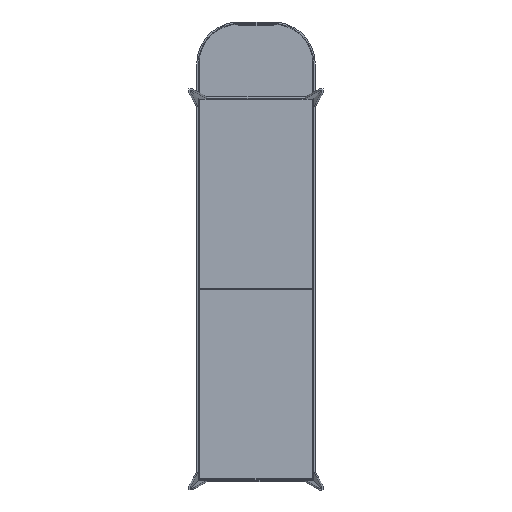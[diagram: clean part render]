
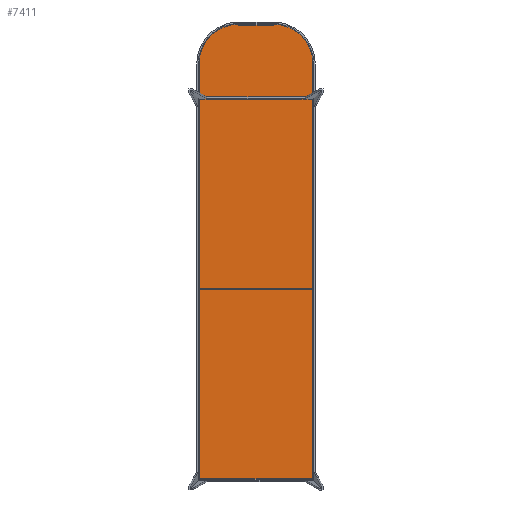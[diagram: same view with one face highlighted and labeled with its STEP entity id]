
A CAD part, front view. The second image highlights one B-rep face of the part: STEP entity #7411.
In plain terms, the highlighted planar face has unit normal (0, -1, 0) as drawn and (0, 0, 1) by its records, which use the part's own axes.
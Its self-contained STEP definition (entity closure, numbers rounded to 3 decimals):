
#250=CIRCLE('',#8296,157.);
#254=CIRCLE('',#8314,157.);
#977=ORIENTED_EDGE('',*,*,#2926,.T.);
#978=ORIENTED_EDGE('',*,*,#2927,.T.);
#979=ORIENTED_EDGE('',*,*,#2928,.T.);
#980=ORIENTED_EDGE('',*,*,#2929,.T.);
#981=ORIENTED_EDGE('',*,*,#2930,.T.);
#982=ORIENTED_EDGE('',*,*,#2913,.F.);
#983=ORIENTED_EDGE('',*,*,#2915,.T.);
#984=ORIENTED_EDGE('',*,*,#2916,.T.);
#985=ORIENTED_EDGE('',*,*,#2918,.T.);
#986=ORIENTED_EDGE('',*,*,#2925,.T.);
#987=ORIENTED_EDGE('',*,*,#2910,.T.);
#988=ORIENTED_EDGE('',*,*,#2893,.T.);
#989=ORIENTED_EDGE('',*,*,#2908,.T.);
#990=ORIENTED_EDGE('',*,*,#2931,.F.);
#2893=EDGE_CURVE('',#3898,#3902,#4576,.T.);
#2908=EDGE_CURVE('',#3902,#3910,#4589,.T.);
#2910=EDGE_CURVE('',#3873,#3898,#4590,.T.);
#2913=EDGE_CURVE('',#3912,#3911,#250,.T.);
#2915=EDGE_CURVE('',#3912,#3913,#4594,.T.);
#2916=EDGE_CURVE('',#3913,#3887,#4595,.T.);
#2918=EDGE_CURVE('',#3887,#3875,#4596,.T.);
#2925=EDGE_CURVE('',#3875,#3873,#4601,.T.);
#2926=EDGE_CURVE('',#3914,#3915,#4602,.T.);
#2927=EDGE_CURVE('',#3915,#3863,#4603,.T.);
#2928=EDGE_CURVE('',#3863,#3861,#4604,.T.);
#2929=EDGE_CURVE('',#3861,#3916,#4605,.T.);
#2930=EDGE_CURVE('',#3916,#3911,#4606,.T.);
#2931=EDGE_CURVE('',#3914,#3910,#254,.T.);
#3861=VERTEX_POINT('',#11396);
#3863=VERTEX_POINT('',#11404);
#3873=VERTEX_POINT('',#11429);
#3875=VERTEX_POINT('',#11437);
#3887=VERTEX_POINT('',#11468);
#3898=VERTEX_POINT('',#11495);
#3902=VERTEX_POINT('',#11507);
#3910=VERTEX_POINT('',#11532);
#3911=VERTEX_POINT('',#11539);
#3912=VERTEX_POINT('',#11541);
#3913=VERTEX_POINT('',#11545);
#3914=VERTEX_POINT('',#11571);
#3915=VERTEX_POINT('',#11572);
#3916=VERTEX_POINT('',#11576);
#4576=LINE('',#11508,#5317);
#4589=LINE('',#11533,#5330);
#4590=LINE('',#11536,#5331);
#4594=LINE('',#11546,#5335);
#4595=LINE('',#11548,#5336);
#4596=LINE('',#11551,#5337);
#4601=LINE('',#11567,#5342);
#4602=LINE('',#11570,#5343);
#4603=LINE('',#11573,#5344);
#4604=LINE('',#11574,#5345);
#4605=LINE('',#11575,#5346);
#4606=LINE('',#11577,#5347);
#5317=VECTOR('',#9218,1000.);
#5330=VECTOR('',#9239,1000.);
#5331=VECTOR('',#9244,1000.);
#5335=VECTOR('',#9254,1000.);
#5336=VECTOR('',#9257,1000.);
#5337=VECTOR('',#9262,1000.);
#5342=VECTOR('',#9289,1000.);
#5343=VECTOR('',#9294,1000.);
#5344=VECTOR('',#9295,1000.);
#5345=VECTOR('',#9296,1000.);
#5346=VECTOR('',#9297,1000.);
#5347=VECTOR('',#9298,1000.);
#6060=EDGE_LOOP('',(#977,#978,#979,#980,#981,#982,#983,#984,#985,#986,#987,
#988,#989,#990));
#6590=FACE_BOUND('',#6060,.T.);
#7088=PLANE('',#8313);
#7411=ADVANCED_FACE('',(#6590),#7088,.T.);
#8296=AXIS2_PLACEMENT_3D('',#11542,#9249,#9250);
#8313=AXIS2_PLACEMENT_3D('',#11569,#9292,#9293);
#8314=AXIS2_PLACEMENT_3D('',#11578,#9299,#9300);
#9218=DIRECTION('',(-1.,0.,0.));
#9239=DIRECTION('',(0.,1.,0.));
#9244=DIRECTION('',(-1.,0.,0.));
#9249=DIRECTION('',(0.,0.,-1.));
#9250=DIRECTION('',(-0.707,-0.707,0.));
#9254=DIRECTION('',(0.,1.,0.));
#9257=DIRECTION('',(1.,0.,0.));
#9262=DIRECTION('',(1.,0.,0.));
#9289=DIRECTION('',(0.,1.,0.));
#9292=DIRECTION('',(0.,0.,1.));
#9293=DIRECTION('',(1.,0.,0.));
#9294=DIRECTION('',(1.,0.,0.));
#9295=DIRECTION('',(0.,-1.,0.));
#9296=DIRECTION('',(0.,-1.,0.));
#9297=DIRECTION('',(0.,-1.,0.));
#9298=DIRECTION('',(-1.,0.,0.));
#9299=DIRECTION('',(0.,0.,-1.));
#9300=DIRECTION('',(-0.707,0.707,0.));
#11396=CARTESIAN_POINT('',(-1342.614,-242.72,3.));
#11404=CARTESIAN_POINT('',(-1342.614,-107.28,3.));
#11429=CARTESIAN_POINT('',(446.055,46.055,3.));
#11437=CARTESIAN_POINT('',(446.055,-396.055,3.));
#11468=CARTESIAN_POINT('',(-1189.28,-396.055,3.));
#11495=CARTESIAN_POINT('',(-1189.28,46.055,3.));
#11507=CARTESIAN_POINT('',(-1190.28,46.055,3.));
#11508=CARTESIAN_POINT('',(-819.28,46.055,3.));
#11532=CARTESIAN_POINT('',(-1190.28,49.717,3.));
#11533=CARTESIAN_POINT('',(-1190.28,-62.641,3.));
#11536=CARTESIAN_POINT('',(-819.28,46.055,3.));
#11539=CARTESIAN_POINT('',(-1346.276,-243.72,3.));
#11541=CARTESIAN_POINT('',(-1190.28,-399.717,3.));
#11542=CARTESIAN_POINT('',(-1189.28,-242.72,3.));
#11545=CARTESIAN_POINT('',(-1190.28,-396.055,3.));
#11546=CARTESIAN_POINT('',(-1190.28,-285.528,3.));
#11548=CARTESIAN_POINT('',(-818.78,-396.055,3.));
#11551=CARTESIAN_POINT('',(-818.78,-396.055,3.));
#11567=CARTESIAN_POINT('',(446.055,-285.528,3.));
#11569=CARTESIAN_POINT('',(-448.28,-175.,3.));
#11570=CARTESIAN_POINT('',(-895.447,-106.28,3.));
#11571=CARTESIAN_POINT('',(-1346.276,-106.28,3.));
#11572=CARTESIAN_POINT('',(-1342.614,-106.28,3.));
#11573=CARTESIAN_POINT('',(-1342.614,-141.14,3.));
#11574=CARTESIAN_POINT('',(-1342.614,-141.14,3.));
#11575=CARTESIAN_POINT('',(-1342.614,-141.14,3.));
#11576=CARTESIAN_POINT('',(-1342.614,-243.72,3.));
#11577=CARTESIAN_POINT('',(-897.278,-243.72,3.));
#11578=CARTESIAN_POINT('',(-1189.28,-107.28,3.));
